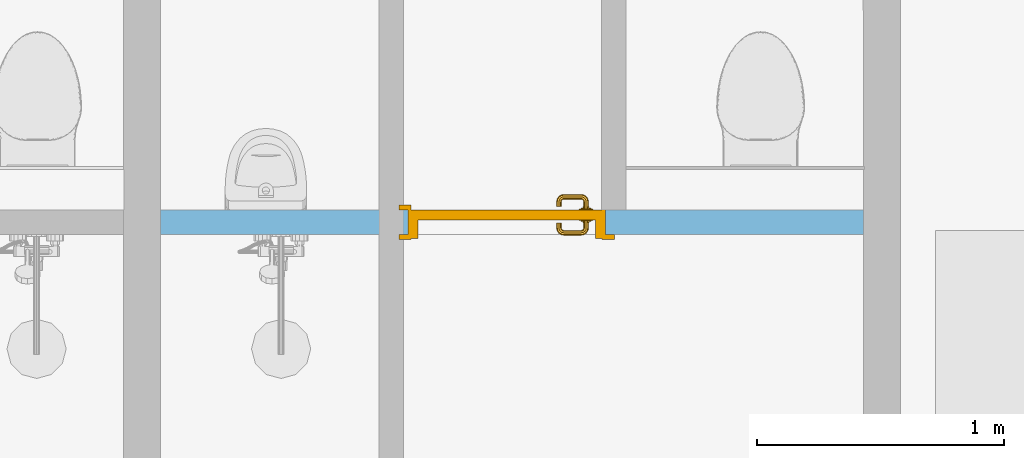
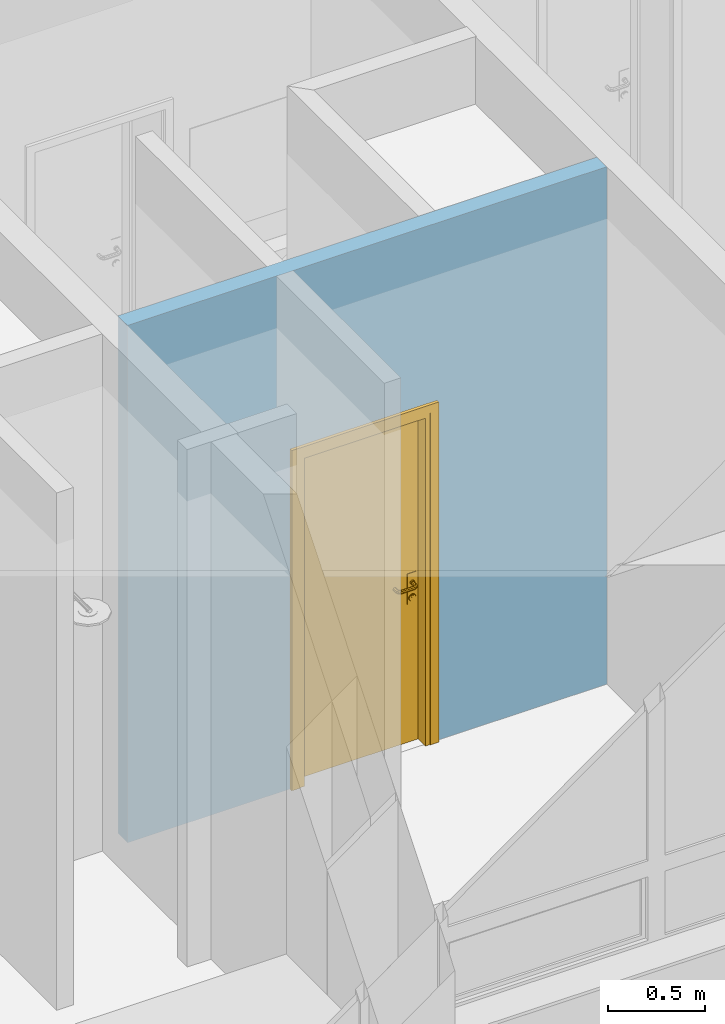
# One storey, part 60 of 194: 1 door, 1 opening, plus 1 element that does not belong to this part.
"""IFC2X3 building model written with IfcOpenShell, lengths in millimetres."""

from ifc_helpers import new_model, entity, si_unit, converted_unit, derived_unit, money_unit, direction, frame, origin_with_axes, origin_2d_with_axis, place, context, subcontext, project, spatial, polyline, rectangle, outline, extrude, open_shell, faceted_brep, surface_model, material, layer, layer_set, layer_usage, type_object, element, fill, save


model = new_model("IFC2X3")

# Units and contexts
model_context = context("Model", 3, precision=1e-05, world=origin_with_axes(), true_north=direction((0.0, 1.0)))
body_context = subcontext(model_context, "Body", "Model", "MODEL_VIEW")
ifc_project = project(units=[si_unit("LENGTHUNIT", "METRE", prefix="MILLI"), si_unit("AREAUNIT", "SQUARE_METRE"), si_unit("VOLUMEUNIT", "CUBIC_METRE"), converted_unit("PLANEANGLEUNIT", "DEGREE", entity("IfcPlaneAngleMeasure", 0.0174532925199), si_unit("PLANEANGLEUNIT", "RADIAN"), dimensions=[0, 0, 0, 0, 0, 0, 0]), si_unit("SOLIDANGLEUNIT", "STERADIAN"), money_unit("EUR"), converted_unit("TIMEUNIT", "Year", entity("IfcTimeMeasure", 31556926.0), si_unit("TIMEUNIT", "SECOND"), dimensions=[0, 0, 1, 0, 0, 0, 0]), si_unit("MASSUNIT", "GRAM", prefix="KILO"), si_unit("THERMODYNAMICTEMPERATUREUNIT", "DEGREE_CELSIUS"), si_unit("LUMINOUSINTENSITYUNIT", "LUMEN"), si_unit("ENERGYUNIT", "JOULE", prefix="MEGA"), derived_unit("THERMALCONDUCTANCEUNIT", [(si_unit("POWERUNIT", "WATT"), 1), (si_unit("LENGTHUNIT", "METRE"), -1), (si_unit("THERMODYNAMICTEMPERATUREUNIT", "KELVIN"), -1)]), derived_unit("SPECIFICHEATCAPACITYUNIT", [(si_unit("ENERGYUNIT", "JOULE"), 1), (si_unit("MASSUNIT", "GRAM", prefix="KILO"), -1), (si_unit("THERMODYNAMICTEMPERATUREUNIT", "KELVIN"), -1)]), derived_unit("MASSDENSITYUNIT", [(si_unit("MASSUNIT", "GRAM", prefix="KILO"), 1), (si_unit("VOLUMEUNIT", "CUBIC_METRE"), -1)])], contexts=[model_context])

# Site, building, storey
site_placement = place(None, origin_with_axes())
site = spatial("IfcSite", under=ifc_project, at=site_placement, Name="Site", CompositionType="ELEMENT")
building_placement = place(site_placement, origin_with_axes())
building = spatial("IfcBuilding", under=site, at=building_placement, Name="Building", CompositionType="ELEMENT")
storey_placement = place(building_placement, frame((0.0, 0.0, 3000.0), z_axis=(0.0, 0.0, 1.0), x_axis=(1.0, 0.0, 0.0)))
storey = spatial("IfcBuildingStorey", under=building, at=storey_placement, Name="2 KORRUS", CompositionType="ELEMENT", Elevation=3000.0)

# Wall, opening, door
ifc_material = material(Name="Kivi -Ol.Olev Konstruktsioon")
ifc_layer = layer(ifc_material, 100.0, ventilated="UNKNOWN")
ifc_layer_set = layer_set([ifc_layer], Name="ol.olev ss 100")
ifc_layer_usage = layer_usage(ifc_layer_set, "AXIS2", "POSITIVE", 0.0)
wall_type = type_object("IfcWallType", Name="SW - 022", PredefinedType="NOTDEFINED")
wall_placement = place(storey_placement, frame((73157.4279343, 37544.6064086, 0.0), z_axis=(0.0, 0.0, 1.0), x_axis=(1.0, 0.0, 0.0)))
wall = element("IfcWallStandardCase", 1, at=wall_placement, inside=storey, type_object=wall_type, material=ifc_layer_usage, Name="ol.olev ss 100", context=body_context, shape_type="SweptSolid", body=[
    extrude(outline(polyline([(0.0, 0.0), (2847.68988131, 0.0), (2847.61015242, 100.0), (0.0, 100.0), (0.0, 0.0)])), origin_with_axes(), (0.0, 0.0, 1.0), 3250.0),
])
opening_placement = place(wall_placement, frame((1402.15777306, 0.0, 0.0), z_axis=(0.0, 0.0, 1.0), x_axis=(1.0, 0.0, 0.0)))
opening = element("IfcOpeningElement", 2, at=opening_placement, cuts=wall, Name="Siseuks * Door 22", context=body_context, shape_type="SweptSolid", body=[
    extrude(rectangle(XDim=800.0, YDim=2100.0, at=origin_2d_with_axis()), frame((0.0, -100.0, 1050.0), z_axis=(0.0, -1.0, 0.0), x_axis=(-1.0, 0.0, 0.0)), (0.0, 0.0, -1.0), 300.000000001),
    extrude(rectangle(XDim=874.0, YDim=2137.0, at=origin_2d_with_axis()), frame((0.0, 0.0, 1068.5), z_axis=(0.0, -1.0, 0.0), x_axis=(-1.0, 0.0, 0.0)), (0.0, 0.0, 1.0), 100.0),
    extrude(rectangle(XDim=874.0, YDim=2137.0, at=origin_2d_with_axis()), frame((0.0, 100.0, 1068.5), z_axis=(0.0, 1.0, 0.0), x_axis=(-1.0, 0.0, 0.0)), (0.0, 0.0, 1.0), 100.0),
])
door_style = type_object("IfcDoorStyle", Name="SU-B234   800×2\xa0100", ConstructionType="NOTDEFINED", OperationType="SINGLE_SWING_LEFT", ParameterTakesPrecedence=False, Sizeable=False)
door_placement = place(opening_placement, frame((-400.0, 0.0, 0.0), z_axis=(0.0, 0.0, 1.0), x_axis=(1.0, 0.0, 0.0)))
door = element("IfcDoor", 3, at=door_placement, inside=storey, type_object=door_style, Name="Siseuks * Door 22", OverallHeight=2100.0, OverallWidth=800.0, context=body_context, shape_type="SurfaceModel", body=[
    faceted_brep([(837.0, -18.9999999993, 0.0), (787.0, -18.9999999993, 0.0), (787.0, 0.0, 0.0), (837.0, 0.0, 0.0), (837.0, -18.9999999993, 2137.0), (787.0, -18.9999999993, 2087.0), (787.0, 0.0, 2087.0), (837.0, 0.0, 2137.0)], [[[0, 1, 2, 3]], [[0, 4, 5, 1]], [[1, 5, 6, 2]], [[3, 2, 6, 7]], [[4, 0, 3, 7]], [[5, 4, 7, 6]]]),
    faceted_brep([(-37.0, -18.9999999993, 2137.0), (13.0, -18.9999999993, 2087.0), (13.0, 0.0, 2087.0), (-37.0, 0.0, 2137.0), (-37.0, -18.9999999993, 0.0), (13.0, -18.9999999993, 0.0), (13.0, 0.0, 0.0), (-37.0, 0.0, 0.0)], [[[0, 1, 2, 3]], [[0, 4, 5, 1]], [[1, 5, 6, 2]], [[3, 2, 6, 7]], [[4, 0, 3, 7]], [[5, 4, 7, 6]]]),
    faceted_brep([(837.0, -18.9999999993, 2137.0), (787.0, -18.9999999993, 2087.0), (787.0, 0.0, 2087.0), (837.0, 0.0, 2137.0), (-37.0, -18.9999999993, 2137.0), (13.0, -18.9999999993, 2087.0), (13.0, 0.0, 2087.0), (-37.0, 0.0, 2137.0)], [[[0, 1, 2, 3]], [[0, 4, 5, 1]], [[1, 5, 6, 2]], [[3, 2, 6, 7]], [[4, 0, 3, 7]], [[5, 4, 7, 6]]]),
    faceted_brep([(837.0, 119.000000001, 0.0), (837.0, 100.0, 0.0), (787.0, 100.0, 0.0), (787.0, 119.000000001, 0.0), (837.0, 119.000000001, 2137.0), (837.0, 100.0, 2137.0), (787.0, 100.0, 2087.0), (787.0, 119.000000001, 2087.0)], [[[0, 1, 2, 3]], [[4, 5, 1, 0]], [[1, 5, 6, 2]], [[3, 2, 6, 7]], [[0, 3, 7, 4]], [[7, 6, 5, 4]]]),
    faceted_brep([(-37.0, 119.000000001, 2137.0), (-37.0, 100.0, 2137.0), (13.0, 100.0, 2087.0), (13.0, 119.000000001, 2087.0), (-37.0, 119.000000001, 0.0), (-37.0, 100.0, 0.0), (13.0, 100.0, 0.0), (13.0, 119.000000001, 0.0)], [[[0, 1, 2, 3]], [[4, 5, 1, 0]], [[1, 5, 6, 2]], [[3, 2, 6, 7]], [[0, 3, 7, 4]], [[7, 6, 5, 4]]]),
    faceted_brep([(837.0, 119.000000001, 2137.0), (837.0, 100.0, 2137.0), (787.0, 100.0, 2087.0), (787.0, 119.000000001, 2087.0), (-37.0, 119.000000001, 2137.0), (-37.0, 100.0, 2137.0), (13.0, 100.0, 2087.0), (13.0, 119.000000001, 2087.0)], [[[0, 1, 2, 3]], [[4, 5, 1, 0]], [[1, 5, 6, 2]], [[3, 2, 6, 7]], [[0, 3, 7, 4]], [[7, 6, 5, 4]]]),
    faceted_brep([(760.0, 60.0000000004, 0.0), (760.0, -14.9999999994, 0.0), (760.0, -14.9999999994, 2060.0), (760.0, 60.0000000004, 2060.0), (772.0, 60.0000000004, 0.0), (772.0, 100.0, 0.0), (800.0, 100.0, 0.0), (800.0, -14.9999999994, 0.0), (800.0, -14.9999999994, 2060.0), (772.0, 60.0000000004, 2060.0), (800.0, 100.0, 2060.0), (772.0, 100.0, 2060.0)], [[[0, 1, 2, 3]], [[4, 5, 6, 7, 1, 0]], [[1, 7, 8, 2]], [[9, 3, 2, 8, 10, 11]], [[9, 4, 0, 3]], [[11, 5, 4, 9]], [[11, 10, 6, 5]], [[6, 10, 8, 7]]]),
    faceted_brep([(28.0, 60.0000000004, 2060.0), (28.0, 100.0, 2060.0), (0.0, 100.0, 2060.0), (0.0, -14.9999999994, 2060.0), (40.0, -14.9999999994, 2060.0), (40.0, 60.0000000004, 2060.0), (28.0, 60.0000000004, 0.0), (28.0, 100.0, 0.0), (0.0, 100.0, 0.0), (0.0, -14.9999999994, 0.0), (40.0, -14.9999999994, 0.0), (40.0, 60.0000000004, 0.0)], [[[0, 1, 2, 3, 4, 5]], [[0, 6, 7, 1]], [[7, 8, 2, 1]], [[2, 8, 9, 3]], [[3, 9, 10, 4]], [[5, 4, 10, 11]], [[5, 11, 6, 0]], [[6, 11, 10, 9, 8, 7]]]),
    faceted_brep([(772.0, 100.0, 2072.0), (28.0, 100.0, 2072.0), (28.0, 100.0, 2060.0), (0.0, 100.0, 2060.0), (0.0, 100.0, 2100.0), (800.0, 100.0, 2100.0), (800.0, 100.0, 2060.0), (772.0, 100.0, 2060.0), (772.0, 60.0000000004, 2072.0), (28.0, 60.0000000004, 2072.0), (28.0, 60.0000000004, 2060.0), (40.0, 60.0000000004, 2060.0), (40.0, -14.9999999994, 2060.0), (0.0, -14.9999999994, 2060.0), (0.0, -14.9999999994, 2100.0), (800.0, -14.9999999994, 2100.0), (800.0, -14.9999999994, 2060.0), (772.0, 60.0000000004, 2060.0), (760.0, -14.9999999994, 2060.0), (760.0, 60.0000000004, 2060.0)], [[[0, 1, 2, 3, 4, 5, 6, 7]], [[0, 8, 9, 1]], [[1, 9, 10, 2]], [[10, 11, 12, 13, 3, 2]], [[4, 3, 13, 14]], [[5, 4, 14, 15]], [[6, 5, 15, 16]], [[17, 7, 6, 16, 18, 19]], [[7, 17, 8, 0]], [[10, 9, 8, 17, 19, 11]], [[19, 18, 12, 11]], [[12, 18, 16, 15, 14, 13]]]),
    faceted_brep([(750.5, 60.0000000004, 1060.0), (693.5, 60.0000000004, 1060.0), (693.5, 57.0000000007, 1060.0), (750.5, 57.0000000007, 1060.0), (750.5, 60.0000000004, 870.0), (693.5, 60.0000000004, 870.0), (693.5, 57.0000000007, 870.0), (750.5, 57.0000000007, 870.0)], [[[0, 1, 2, 3]], [[0, 4, 5, 1]], [[1, 5, 6, 2]], [[3, 2, 6, 7]], [[4, 0, 3, 7]], [[5, 4, 7, 6]]]),
    surface_model("IfcShellBasedSurfaceModel", [(712.0, 47.0000000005, 1000.0), (714.928932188, 47.0000000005, 992.928932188), (714.928932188, 27.6964393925, 992.928932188), (712.0, 27.9849140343, 1000.0), (722.0, 47.0000000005, 990.0), (722.0, 27.0, 990.0), (713.816790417, 22.1053251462, 992.928932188), (711.057796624, 23.2481377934, 1000.0), (714.928932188, 47.0000000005, 1007.07106781), (714.928932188, 27.6964393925, 1007.07106781), (729.071067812, 47.0000000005, 992.928932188), (729.071067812, 26.3035606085, 992.928932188), (720.47759065, 19.3463313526, 990.0), (711.044179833, 17.955820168, 992.928932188), (708.932537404, 20.0674625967, 1000.0), (713.816790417, 22.1053251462, 1007.07106781), (722.0, 47.0000000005, 1010.0), (722.0, 27.0, 1010.0), (732.0, 47.0000000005, 1000.0), (732.0, 26.0150859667, 1000.0), (727.138390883, 16.5873375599, 992.928932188), (716.142135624, 12.8578643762, 990.0), (706.894674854, 15.1832095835, 992.928932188), (705.751862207, 17.9422033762, 1000.0), (711.044179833, 17.955820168, 1007.07106781), (720.47759065, 19.3463313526, 1010.0), (729.071067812, 47.0000000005, 1007.07106781), (729.071067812, 26.3035606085, 1007.07106781), (729.897384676, 15.4445249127, 1000.0), (721.240091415, 7.75990858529, 992.928932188), (709.653668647, 8.52240935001, 990.0), (701.303560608, 14.0710678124, 992.928932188), (701.015085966, 17.0000000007, 1000.0), (706.894674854, 15.1832095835, 1007.07106781), (716.142135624, 12.8578643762, 1010.0), (727.138390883, 16.5873375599, 1007.07106781), (723.351733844, 5.64826615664, 1000.0), (712.41266244, 1.86160911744, 992.928932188), (702.0, 7.00000000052, 990.0), (632.696439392, 14.0710678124, 992.928932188), (632.984914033, 17.0000000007, 1000.0), (701.303560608, 14.0710678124, 1007.07106781), (709.653668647, 8.52240935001, 1010.0), (721.240091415, 7.75990858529, 1007.07106781), (713.555475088, -0.897384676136, 1000.0), (702.696439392, -0.0710678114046, 992.928932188), (632.0, 7.00000000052, 990.0), (627.105325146, 15.1832095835, 992.928932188), (628.248137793, 17.9422033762, 1000.0), (632.696439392, 14.0710678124, 1007.07106781), (702.0, 7.00000000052, 1010.0), (712.41266244, 1.86160911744, 1007.07106781), (702.984914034, -2.9999999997, 1000.0), (631.303560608, -0.0710678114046, 992.928932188), (624.346331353, 8.52240935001, 990.0), (622.955820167, 17.955820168, 992.928932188), (625.067462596, 20.0674625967, 1000.0), (627.105325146, 15.1832095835, 1007.07106781), (632.0, 7.00000000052, 1010.0), (702.696439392, -0.0710678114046, 1007.07106781), (631.015085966, -2.9999999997, 1000.0), (621.58733756, 1.86160911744, 992.928932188), (617.857864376, 12.8578643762, 990.0), (620.183209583, 22.1053251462, 992.928932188), (622.942203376, 23.2481377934, 1000.0), (622.955820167, 17.955820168, 1007.07106781), (624.346331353, 8.52240935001, 1010.0), (631.303560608, -0.0710678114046, 1007.07106781), (620.444524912, -0.897384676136, 1000.0), (612.759908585, 7.75990858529, 992.928932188), (613.52240935, 19.3463313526, 990.0), (619.071067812, 27.6964393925, 992.928932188), (622.0, 27.9849140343, 1000.0), (620.183209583, 22.1053251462, 1007.07106781), (617.857864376, 12.8578643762, 1010.0), (621.58733756, 1.86160911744, 1007.07106781), (610.648266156, 5.64826615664, 1000.0), (606.861609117, 16.5873375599, 992.928932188), (612.0, 27.0, 990.0), (619.071067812, 47.0000000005, 992.928932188), (622.0, 47.0000000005, 1000.0), (619.071067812, 27.6964393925, 1007.07106781), (613.52240935, 19.3463313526, 1010.0), (612.759908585, 7.75990858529, 1007.07106781), (604.102615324, 15.4445249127, 1000.0), (604.928932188, 26.3035606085, 992.928932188), (612.0, 47.0000000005, 990.0), (604.928932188, 47.0000000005, 992.928932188), (602.0, 47.0000000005, 1000.0), (604.928932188, 47.0000000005, 1007.07106781), (612.0, 47.0000000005, 1010.0), (619.071067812, 47.0000000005, 1007.07106781), (612.0, 27.0, 1010.0), (606.861609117, 16.5873375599, 1007.07106781), (602.0, 26.0150859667, 1000.0), (604.928932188, 26.3035606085, 1007.07106781)], [open_shell([[[0, 1, 2, 3]], [[1, 4, 5, 2]], [[3, 2, 6, 7]], [[8, 0, 3, 9]], [[4, 10, 11, 5]], [[2, 5, 12, 6]], [[7, 6, 13, 14]], [[9, 3, 7, 15]], [[16, 8, 9, 17]], [[10, 18, 19, 11]], [[5, 11, 20, 12]], [[6, 12, 21, 13]], [[14, 13, 22, 23]], [[15, 7, 14, 24]], [[17, 9, 15, 25]], [[26, 16, 17, 27]], [[18, 26, 27, 19]], [[11, 19, 28, 20]], [[12, 20, 29, 21]], [[13, 21, 30, 22]], [[23, 22, 31, 32]], [[24, 14, 23, 33]], [[25, 15, 24, 34]], [[27, 17, 25, 35]], [[19, 27, 35, 28]], [[20, 28, 36, 29]], [[21, 29, 37, 30]], [[22, 30, 38, 31]], [[32, 31, 39, 40]], [[33, 23, 32, 41]], [[34, 24, 33, 42]], [[35, 25, 34, 43]], [[28, 35, 43, 36]], [[29, 36, 44, 37]], [[30, 37, 45, 38]], [[31, 38, 46, 39]], [[40, 39, 47, 48]], [[41, 32, 40, 49]], [[42, 33, 41, 50]], [[43, 34, 42, 51]], [[36, 43, 51, 44]], [[37, 44, 52, 45]], [[38, 45, 53, 46]], [[39, 46, 54, 47]], [[48, 47, 55, 56]], [[49, 40, 48, 57]], [[50, 41, 49, 58]], [[51, 42, 50, 59]], [[44, 51, 59, 52]], [[45, 52, 60, 53]], [[46, 53, 61, 54]], [[47, 54, 62, 55]], [[56, 55, 63, 64]], [[57, 48, 56, 65]], [[58, 49, 57, 66]], [[59, 50, 58, 67]], [[52, 59, 67, 60]], [[53, 60, 68, 61]], [[54, 61, 69, 62]], [[55, 62, 70, 63]], [[64, 63, 71, 72]], [[65, 56, 64, 73]], [[66, 57, 65, 74]], [[67, 58, 66, 75]], [[60, 67, 75, 68]], [[61, 68, 76, 69]], [[62, 69, 77, 70]], [[63, 70, 78, 71]], [[72, 71, 79, 80]], [[73, 64, 72, 81]], [[74, 65, 73, 82]], [[75, 66, 74, 83]], [[68, 75, 83, 76]], [[69, 76, 84, 77]], [[70, 77, 85, 78]], [[71, 78, 86, 79]], [[80, 79, 86, 87, 88, 89, 90, 91]], [[81, 72, 80, 91]], [[82, 73, 81, 92]], [[83, 74, 82, 93]], [[76, 83, 93, 84]], [[77, 84, 94, 85]], [[78, 85, 87, 86]], [[85, 94, 88, 87]], [[94, 95, 89, 88]], [[95, 92, 90, 89]], [[92, 81, 91, 90]], [[93, 82, 92, 95]], [[84, 93, 95, 94]]])]),
    faceted_brep([(711.607695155, 47.0000000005, 994.0), (710.0, 47.0000000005, 1000.0), (709.0, 57.0000000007, 1000.0), (710.741669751, 57.0000000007, 993.5), (716.0, 47.0000000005, 989.607695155), (722.0, 47.0000000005, 988.0), (728.0, 47.0000000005, 989.607695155), (732.392304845, 47.0000000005, 994.0), (734.0, 47.0000000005, 1000.0), (732.392304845, 47.0000000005, 1006.0), (728.0, 47.0000000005, 1010.39230485), (722.0, 47.0000000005, 1012.0), (716.0, 47.0000000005, 1010.39230485), (711.607695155, 47.0000000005, 1006.0), (710.741669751, 57.0000000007, 1006.5), (715.5, 57.0000000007, 1011.25833025), (722.0, 57.0000000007, 1013.0), (728.5, 57.0000000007, 1011.25833025), (733.258330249, 57.0000000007, 1006.5), (735.0, 57.0000000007, 1000.0), (733.258330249, 57.0000000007, 993.5), (728.5, 57.0000000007, 988.741669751), (722.0, 57.0000000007, 987.0), (715.5, 57.0000000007, 988.741669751)], [[[0, 1, 2, 3]], [[1, 0, 4, 5, 6, 7, 8, 9, 10, 11, 12, 13]], [[1, 13, 14, 2]], [[2, 14, 15, 16, 17, 18, 19, 20, 21, 22, 23, 3]], [[4, 0, 3, 23]], [[5, 4, 23, 22]], [[6, 5, 22, 21]], [[7, 6, 21, 20]], [[8, 7, 20, 19]], [[9, 8, 19, 18]], [[10, 9, 18, 17]], [[11, 10, 17, 16]], [[12, 11, 16, 15]], [[13, 12, 15, 14]]]),
    faceted_brep([(704.679491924, 53.0000000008, 895.0), (702.0, 53.0000000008, 905.0), (700.0, 57.0000000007, 905.0), (702.947441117, 57.0000000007, 894.0), (712.0, 53.0000000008, 887.679491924), (722.0, 53.0000000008, 885.0), (732.0, 53.0000000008, 887.679491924), (739.320508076, 53.0000000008, 895.0), (742.0, 53.0000000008, 905.0), (739.320508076, 53.0000000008, 915.0), (732.0, 53.0000000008, 922.320508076), (722.0, 53.0000000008, 925.0), (712.0, 53.0000000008, 922.320508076), (704.679491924, 53.0000000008, 915.0), (702.947441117, 57.0000000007, 916.0), (711.0, 57.0000000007, 924.052558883), (722.0, 57.0000000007, 927.0), (733.0, 57.0000000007, 924.052558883), (741.052558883, 57.0000000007, 916.0), (744.0, 57.0000000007, 905.0), (741.052558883, 57.0000000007, 894.0), (733.0, 57.0000000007, 885.947441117), (722.0, 57.0000000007, 883.0), (711.0, 57.0000000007, 885.947441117)], [[[0, 1, 2, 3]], [[1, 0, 4, 5, 6, 7, 8, 9, 10, 11, 12, 13]], [[1, 13, 14, 2]], [[2, 14, 15, 16, 17, 18, 19, 20, 21, 22, 23, 3]], [[4, 0, 3, 23]], [[5, 4, 23, 22]], [[6, 5, 22, 21]], [[7, 6, 21, 20]], [[8, 7, 20, 19]], [[9, 8, 19, 18]], [[10, 9, 18, 17]], [[11, 10, 17, 16]], [[12, 11, 16, 15]], [[13, 12, 15, 14]]]),
    faceted_brep([(717.050252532, 51.0000000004, 909.050252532), (715.0, 51.0000000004, 914.0), (714.0, 53.0000000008, 914.0), (716.34314575, 53.0000000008, 908.343145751), (722.0, 51.0000000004, 907.0), (726.949747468, 51.0000000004, 909.050252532), (729.0, 51.0000000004, 914.0), (726.949747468, 51.0000000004, 918.949747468), (722.0, 51.0000000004, 921.0), (717.050252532, 51.0000000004, 918.949747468), (716.34314575, 53.0000000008, 919.656854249), (722.0, 53.0000000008, 922.0), (727.65685425, 53.0000000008, 919.656854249), (730.0, 53.0000000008, 914.0), (727.65685425, 53.0000000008, 908.343145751), (722.0, 53.0000000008, 906.0)], [[[0, 1, 2, 3]], [[1, 0, 4, 5, 6, 7, 8, 9]], [[1, 9, 10, 2]], [[2, 10, 11, 12, 13, 14, 15, 3]], [[4, 0, 3, 15]], [[5, 4, 15, 14]], [[6, 5, 14, 13]], [[7, 6, 13, 12]], [[8, 7, 12, 11]], [[9, 8, 11, 10]]]),
    faceted_brep([(750.5, 100.0, 1060.0), (750.5, 103.0, 1060.0), (693.5, 103.0, 1060.0), (693.5, 100.0, 1060.0), (750.5, 100.0, 870.0), (750.5, 103.0, 870.0), (693.5, 103.0, 870.0), (693.5, 100.0, 870.0)], [[[0, 1, 2, 3]], [[4, 5, 1, 0]], [[1, 5, 6, 2]], [[3, 2, 6, 7]], [[0, 3, 7, 4]], [[7, 6, 5, 4]]]),
    surface_model("IfcShellBasedSurfaceModel", [(712.0, 113.0, 1000.0), (712.0, 132.015085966, 1000.0), (714.928932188, 132.303560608, 992.928932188), (714.928932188, 113.0, 992.928932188), (714.928932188, 113.0, 1007.07106781), (714.928932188, 132.303560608, 1007.07106781), (711.057796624, 136.751862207, 1000.0), (713.816790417, 137.894674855, 992.928932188), (722.0, 133.000000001, 990.0), (722.0, 113.0, 990.0), (722.0, 113.0, 1010.0), (722.0, 133.000000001, 1010.0), (713.816790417, 137.894674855, 1007.07106781), (708.932537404, 139.932537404, 1000.0), (711.044179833, 142.044179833, 992.928932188), (720.47759065, 140.653668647, 990.0), (729.071067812, 133.696439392, 992.928932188), (729.071067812, 113.0, 992.928932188), (729.071067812, 113.0, 1007.07106781), (729.071067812, 133.696439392, 1007.07106781), (720.47759065, 140.653668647, 1010.0), (711.044179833, 142.044179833, 1007.07106781), (705.751862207, 142.057796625, 1000.0), (706.894674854, 144.816790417, 992.928932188), (716.142135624, 147.142135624, 990.0), (727.138390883, 143.412662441, 992.928932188), (732.0, 133.984914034, 1000.0), (732.0, 113.0, 1000.0), (727.138390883, 143.412662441, 1007.07106781), (716.142135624, 147.142135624, 1010.0), (706.894674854, 144.816790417, 1007.07106781), (701.015085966, 143.0, 1000.0), (701.303560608, 145.928932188, 992.928932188), (709.653668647, 151.477590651, 990.0), (721.240091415, 152.240091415, 992.928932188), (729.897384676, 144.555475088, 1000.0), (721.240091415, 152.240091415, 1007.07106781), (709.653668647, 151.477590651, 1010.0), (701.303560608, 145.928932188, 1007.07106781), (632.984914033, 143.0, 1000.0), (632.696439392, 145.928932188, 992.928932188), (702.0, 153.0, 990.0), (712.41266244, 158.138390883, 992.928932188), (723.351733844, 154.351733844, 1000.0), (712.41266244, 158.138390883, 1007.07106781), (702.0, 153.0, 1010.0), (632.696439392, 145.928932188, 1007.07106781), (628.248137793, 142.057796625, 1000.0), (627.105325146, 144.816790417, 992.928932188), (632.0, 153.0, 990.0), (702.696439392, 160.071067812, 992.928932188), (713.555475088, 160.897384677, 1000.0), (702.696439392, 160.071067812, 1007.07106781), (632.0, 153.0, 1010.0), (627.105325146, 144.816790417, 1007.07106781), (625.067462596, 139.932537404, 1000.0), (622.955820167, 142.044179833, 992.928932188), (624.346331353, 151.477590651, 990.0), (631.303560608, 160.071067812, 992.928932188), (702.984914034, 163.0, 1000.0), (631.303560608, 160.071067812, 1007.07106781), (624.346331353, 151.477590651, 1010.0), (622.955820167, 142.044179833, 1007.07106781), (622.942203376, 136.751862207, 1000.0), (620.183209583, 137.894674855, 992.928932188), (617.857864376, 147.142135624, 990.0), (621.58733756, 158.138390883, 992.928932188), (631.015085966, 163.0, 1000.0), (621.58733756, 158.138390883, 1007.07106781), (617.857864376, 147.142135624, 1010.0), (620.183209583, 137.894674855, 1007.07106781), (622.0, 132.015085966, 1000.0), (619.071067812, 132.303560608, 992.928932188), (613.52240935, 140.653668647, 990.0), (612.759908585, 152.240091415, 992.928932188), (620.444524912, 160.897384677, 1000.0), (612.759908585, 152.240091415, 1007.07106781), (613.52240935, 140.653668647, 1010.0), (619.071067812, 132.303560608, 1007.07106781), (622.0, 113.0, 1000.0), (619.071067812, 113.0, 992.928932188), (612.0, 133.000000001, 990.0), (606.861609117, 143.412662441, 992.928932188), (610.648266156, 154.351733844, 1000.0), (606.861609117, 143.412662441, 1007.07106781), (612.0, 133.000000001, 1010.0), (619.071067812, 113.0, 1007.07106781), (612.0, 113.0, 1010.0), (604.928932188, 113.0, 1007.07106781), (602.0, 113.0, 1000.0), (604.928932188, 113.0, 992.928932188), (612.0, 113.0, 990.0), (604.928932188, 133.696439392, 992.928932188), (604.102615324, 144.555475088, 1000.0), (604.928932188, 133.696439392, 1007.07106781), (602.0, 133.984914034, 1000.0)], [open_shell([[[0, 1, 2, 3]], [[4, 5, 1, 0]], [[1, 6, 7, 2]], [[3, 2, 8, 9]], [[10, 11, 5, 4]], [[5, 12, 6, 1]], [[6, 13, 14, 7]], [[2, 7, 15, 8]], [[9, 8, 16, 17]], [[18, 19, 11, 10]], [[11, 20, 12, 5]], [[12, 21, 13, 6]], [[13, 22, 23, 14]], [[7, 14, 24, 15]], [[8, 15, 25, 16]], [[17, 16, 26, 27]], [[27, 26, 19, 18]], [[19, 28, 20, 11]], [[20, 29, 21, 12]], [[21, 30, 22, 13]], [[22, 31, 32, 23]], [[14, 23, 33, 24]], [[15, 24, 34, 25]], [[16, 25, 35, 26]], [[26, 35, 28, 19]], [[28, 36, 29, 20]], [[29, 37, 30, 21]], [[30, 38, 31, 22]], [[31, 39, 40, 32]], [[23, 32, 41, 33]], [[24, 33, 42, 34]], [[25, 34, 43, 35]], [[35, 43, 36, 28]], [[36, 44, 37, 29]], [[37, 45, 38, 30]], [[38, 46, 39, 31]], [[39, 47, 48, 40]], [[32, 40, 49, 41]], [[33, 41, 50, 42]], [[34, 42, 51, 43]], [[43, 51, 44, 36]], [[44, 52, 45, 37]], [[45, 53, 46, 38]], [[46, 54, 47, 39]], [[47, 55, 56, 48]], [[40, 48, 57, 49]], [[41, 49, 58, 50]], [[42, 50, 59, 51]], [[51, 59, 52, 44]], [[52, 60, 53, 45]], [[53, 61, 54, 46]], [[54, 62, 55, 47]], [[55, 63, 64, 56]], [[48, 56, 65, 57]], [[49, 57, 66, 58]], [[50, 58, 67, 59]], [[59, 67, 60, 52]], [[60, 68, 61, 53]], [[61, 69, 62, 54]], [[62, 70, 63, 55]], [[63, 71, 72, 64]], [[56, 64, 73, 65]], [[57, 65, 74, 66]], [[58, 66, 75, 67]], [[67, 75, 68, 60]], [[68, 76, 69, 61]], [[69, 77, 70, 62]], [[70, 78, 71, 63]], [[71, 79, 80, 72]], [[64, 72, 81, 73]], [[65, 73, 82, 74]], [[66, 74, 83, 75]], [[75, 83, 76, 68]], [[76, 84, 77, 69]], [[77, 85, 78, 70]], [[78, 86, 79, 71]], [[79, 86, 87, 88, 89, 90, 91, 80]], [[72, 80, 91, 81]], [[73, 81, 92, 82]], [[74, 82, 93, 83]], [[83, 93, 84, 76]], [[84, 94, 85, 77]], [[85, 87, 86, 78]], [[94, 88, 87, 85]], [[95, 89, 88, 94]], [[92, 90, 89, 95]], [[81, 91, 90, 92]], [[82, 92, 95, 93]], [[93, 95, 94, 84]]])]),
    faceted_brep([(711.607695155, 113.0, 994.0), (710.741669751, 103.0, 993.5), (709.0, 103.0, 1000.0), (710.0, 113.0, 1000.0), (716.0, 113.0, 989.607695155), (715.5, 103.0, 988.741669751), (722.0, 103.0, 987.0), (728.5, 103.0, 988.741669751), (733.258330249, 103.0, 993.5), (735.0, 103.0, 1000.0), (733.258330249, 103.0, 1006.5), (728.5, 103.0, 1011.25833025), (722.0, 103.0, 1013.0), (715.5, 103.0, 1011.25833025), (710.741669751, 103.0, 1006.5), (711.607695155, 113.0, 1006.0), (716.0, 113.0, 1010.39230485), (722.0, 113.0, 1012.0), (728.0, 113.0, 1010.39230485), (732.392304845, 113.0, 1006.0), (734.0, 113.0, 1000.0), (732.392304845, 113.0, 994.0), (728.0, 113.0, 989.607695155), (722.0, 113.0, 988.0)], [[[0, 1, 2, 3]], [[4, 5, 1, 0]], [[2, 1, 5, 6, 7, 8, 9, 10, 11, 12, 13, 14]], [[3, 2, 14, 15]], [[3, 15, 16, 17, 18, 19, 20, 21, 22, 23, 4, 0]], [[23, 6, 5, 4]], [[22, 7, 6, 23]], [[21, 8, 7, 22]], [[20, 9, 8, 21]], [[19, 10, 9, 20]], [[18, 11, 10, 19]], [[17, 12, 11, 18]], [[16, 13, 12, 17]], [[15, 14, 13, 16]]]),
    faceted_brep([(704.679491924, 107.0, 895.0), (702.947441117, 103.0, 894.0), (700.0, 103.0, 905.0), (702.0, 107.0, 905.0), (712.0, 107.0, 887.679491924), (711.0, 103.0, 885.947441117), (722.0, 103.0, 883.0), (733.0, 103.0, 885.947441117), (741.052558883, 103.0, 894.0), (744.0, 103.0, 905.0), (741.052558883, 103.0, 916.0), (733.0, 103.0, 924.052558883), (722.0, 103.0, 927.0), (711.0, 103.0, 924.052558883), (702.947441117, 103.0, 916.0), (704.679491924, 107.0, 915.0), (712.0, 107.0, 922.320508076), (722.0, 107.0, 925.0), (732.0, 107.0, 922.320508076), (739.320508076, 107.0, 915.0), (742.0, 107.0, 905.0), (739.320508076, 107.0, 895.0), (732.0, 107.0, 887.679491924), (722.0, 107.0, 885.0)], [[[0, 1, 2, 3]], [[4, 5, 1, 0]], [[2, 1, 5, 6, 7, 8, 9, 10, 11, 12, 13, 14]], [[3, 2, 14, 15]], [[3, 15, 16, 17, 18, 19, 20, 21, 22, 23, 4, 0]], [[23, 6, 5, 4]], [[22, 7, 6, 23]], [[21, 8, 7, 22]], [[20, 9, 8, 21]], [[19, 10, 9, 20]], [[18, 11, 10, 19]], [[17, 12, 11, 18]], [[16, 13, 12, 17]], [[15, 14, 13, 16]]]),
    faceted_brep([(717.050252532, 109.0, 909.050252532), (716.34314575, 107.0, 908.343145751), (714.0, 107.0, 914.0), (715.0, 109.0, 914.0), (722.0, 109.0, 907.0), (722.0, 107.0, 906.0), (727.65685425, 107.0, 908.343145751), (730.0, 107.0, 914.0), (727.65685425, 107.0, 919.656854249), (722.0, 107.0, 922.0), (716.34314575, 107.0, 919.656854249), (717.050252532, 109.0, 918.949747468), (722.0, 109.0, 921.0), (726.949747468, 109.0, 918.949747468), (729.0, 109.0, 914.0), (726.949747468, 109.0, 909.050252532)], [[[0, 1, 2, 3]], [[4, 5, 1, 0]], [[2, 1, 5, 6, 7, 8, 9, 10]], [[3, 2, 10, 11]], [[3, 11, 12, 13, 14, 15, 4, 0]], [[15, 6, 5, 4]], [[14, 7, 6, 15]], [[13, 8, 7, 14]], [[12, 9, 8, 13]], [[11, 10, 9, 12]]]),
    faceted_brep([(28.0, 100.0, 0.0), (772.0, 100.0, 0.0), (772.0, 60.0000000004, 0.0), (28.0, 60.0000000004, 0.0), (28.0, 100.0, 2072.0), (772.0, 100.0, 2072.0), (772.0, 60.0000000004, 2072.0), (28.0, 60.0000000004, 2072.0)], [[[0, 1, 2, 3]], [[0, 4, 5, 1]], [[1, 5, 6, 2]], [[3, 2, 6, 7]], [[4, 0, 3, 7]], [[5, 4, 7, 6]]]),
])
fill(opening, door)

save(model, "model.ifc")
